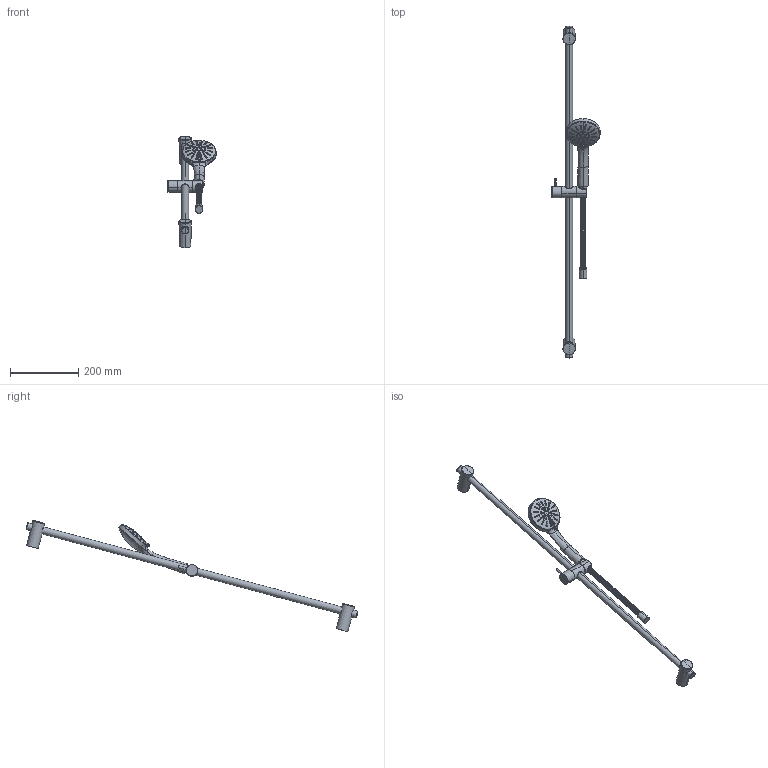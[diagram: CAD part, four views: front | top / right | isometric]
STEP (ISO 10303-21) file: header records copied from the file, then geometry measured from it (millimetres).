
FILE_DESCRIPTION((''),'2;1');
FILE_NAME('76520--','2026-09-24T12:23:54',('simi1'),(''),'CREO PARAMETRIC BY PTC INC, 2022244','CREO PARAMETRIC BY PTC INC, 2022244','');
FILE_SCHEMA(('CONFIG_CONTROL_DESIGN'));
Length unit declared in the file: millimetre
Products named in the file (1): 76520--
Bounding box: 141.78 x 973.04 x 325.81 mm (x, y, z)
Surface area: 173055.5 mm2 (no closed solid volume)
Topology: 0 solids, 96 shells, 648 faces, 1884 edges, 1295 vertices
Faces by surface type: torus 171, cylinder 135, bspline 134, cone 101, plane 88, sphere 10, revolution 9
Entity records: 50447 total; most frequent: CARTESIAN_POINT 34738, ORIENTED_EDGE 3264, DIRECTION 3085, EDGE_CURVE 1872, AXIS2_PLACEMENT_3D 1373, VERTEX_POINT 1295, CIRCLE 868, B_SPLINE_CURVE_WITH_KNOTS 683
